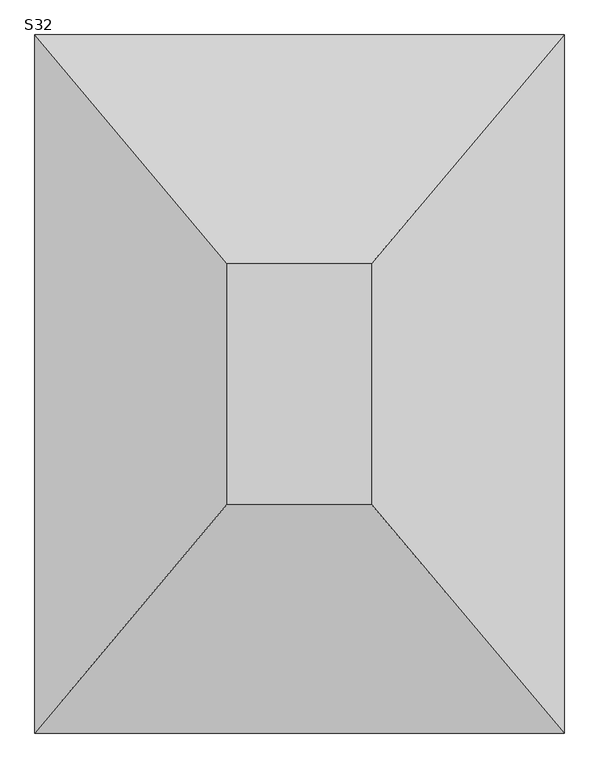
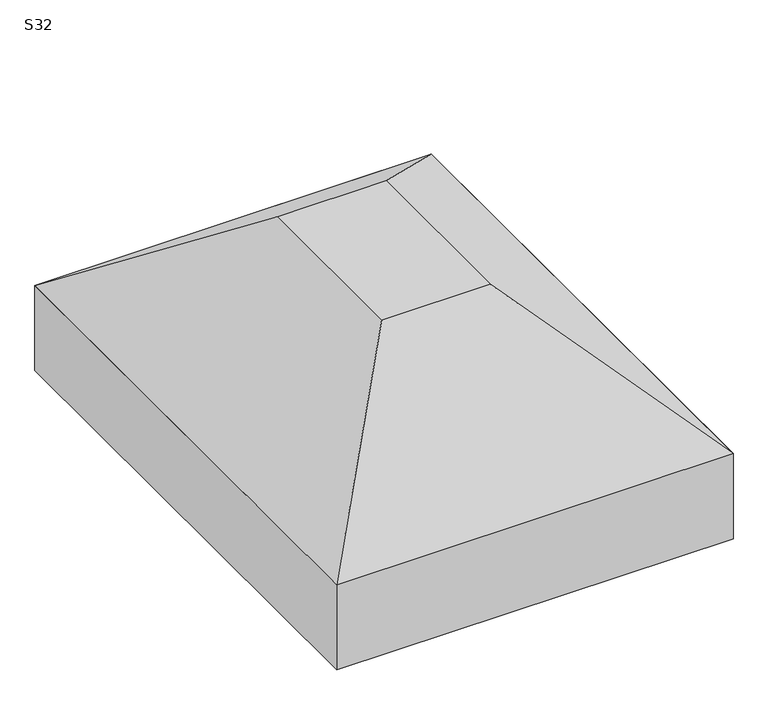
"""IFC4 building model written with IfcOpenShell, lengths in millimetres: fastener geometry, TQS - Sapata : S32."""

from ifc_helpers import new_model, si_unit, frame, origin, place, context, project, spatial, polyline, outline, extrude, faceted_brep, source, transform, mapped, element, save


def s32_88197e2a(model_context):
    return source(origin(), model_context, "Body", "SolidModel", [
        faceted_brep([(-50.0, 50.0, 0.0), (-350.0, 50.0, 0.0), (-350.0, -450.0, 0.0), (-50.0, -450.0, 0.0), (350.0, 525.0, -350.0), (350.0, -925.0, -350.0), (-750.0, -925.0, -350.0), (-750.0, 525.0, -350.0)], [[[0, 1, 2, 3]], [[4, 5, 6, 7]], [[4, 7, 1, 0]], [[7, 6, 2, 1]], [[6, 5, 3, 2]], [[5, 4, 0, 3]]]),
        extrude(outline(polyline([(350.0, 525.0), (350.0, -925.0), (-750.0, -925.0), (-750.0, 525.0), (350.0, 525.0)])), frame((0.0, 0.0, -600.0), z_axis=(0.0, 0.0, 1.0), x_axis=(1.0, 0.0, 0.0)), (0.0, 0.0, 1.0), 250.0),
    ])


if __name__ == "__main__":
    model = new_model("IFC4")
    model_context = context("Model", 3, world=origin())
    ifc_project = project(units=[si_unit("LENGTHUNIT", "METRE", prefix="MILLI")], contexts=[model_context])
    site = spatial("IfcSite", under=ifc_project)
    building = spatial("IfcBuilding", under=site)
    placement = place(None, origin())
    s32_shape = s32_88197e2a(model_context)
    element("IfcFastener", 1, ObjectType="TQS - Sapata : S32", at=placement, inside=building, context=model_context, shape_type="MappedRepresentation", body=[
        mapped(s32_shape, transform((0.0, 0.0, 0.0), x_axis=(1.0, 0.0, 0.0), y_axis=(0.0, 1.0, 0.0), z_axis=(0.0, 0.0, 1.0))),
    ])
    save(model, "model.ifc")
